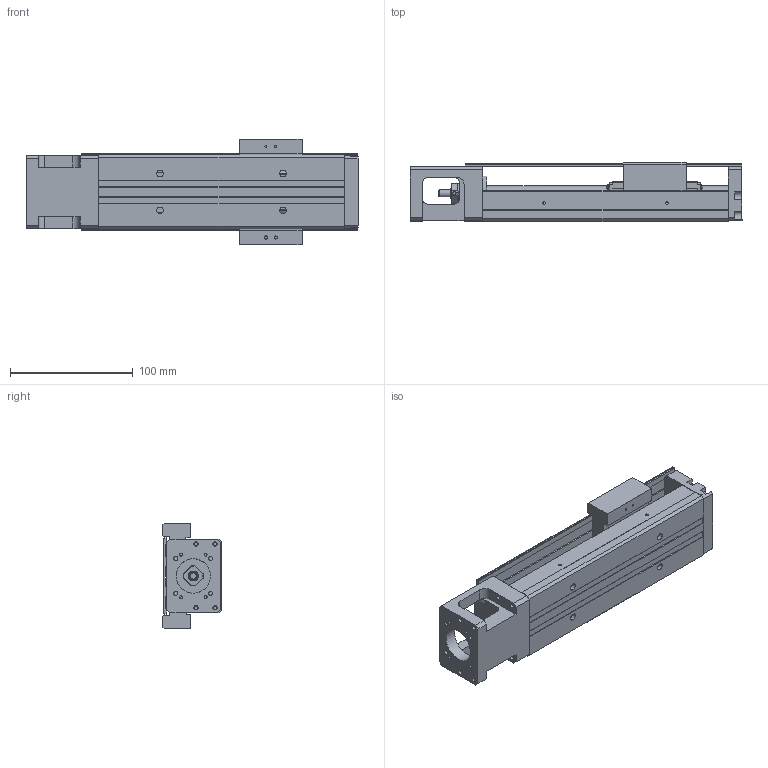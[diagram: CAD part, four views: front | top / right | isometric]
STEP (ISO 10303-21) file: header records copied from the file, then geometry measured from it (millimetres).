
FILE_DESCRIPTION(/* description */ (''),/* implementation_level */ '2;1');
FILE_NAME(/* name */ 'KP33N-200C.stp',/* time_stamp */ '2019-02-25T14:47:36+08:00',/* author */ (''),/* organization */ (''),/* preprocessor_version */ 'ST-DEVELOPER v11',/* originating_system */ 'SIEMENS UGS NX 6.0',/* authorisation */ '');
FILE_SCHEMA (('CONFIG_CONTROL_DESIGN'));
Length unit declared in the file: millimetre
Products named in the file (1): darrFF5Egx5s
Bounding box: 270 x 47.95 x 86 mm (x, y, z)
Volume: 438373.4 mm3; surface area: 145720.4 mm2
Topology: 7 solids, 12 shells, 695 faces, 1773 edges, 1172 vertices
Faces by surface type: plane 418, cylinder 190, bspline 31, cone 24, extrusion 21, torus 9, revolution 2
Full cylindrical faces by diameter (mm): 1.6 x3, 1.65 x4, 2.15 x2, 2.42 x4, 2.45 x8, 2.5 x14, 3 x3, 3.2 x4, 3.3 x4, 3.4 x3, 3.5 x10, 3.969 x1, 4 x6, 4.001 x1, 4.135 x4, 4.2 x4, 5.5 x4, 6 x5, 7.6 x1, 8 x5, 9.5 x4, 10.72 x3, 11.8 x2, 12 x6, 12.8 x1, 13 x2, 14 x1, 17.38 x3, 21.5 x1, 22 x2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
Entity records: 32349 total; most frequent: CARTESIAN_POINT 16417, DIRECTION 3166, ORIENTED_EDGE 3090, EDGE_CURVE 1545, AXIS2_PLACEMENT_3D 1098, VERTEX_POINT 1095, EDGE_LOOP 978, VECTOR 968
